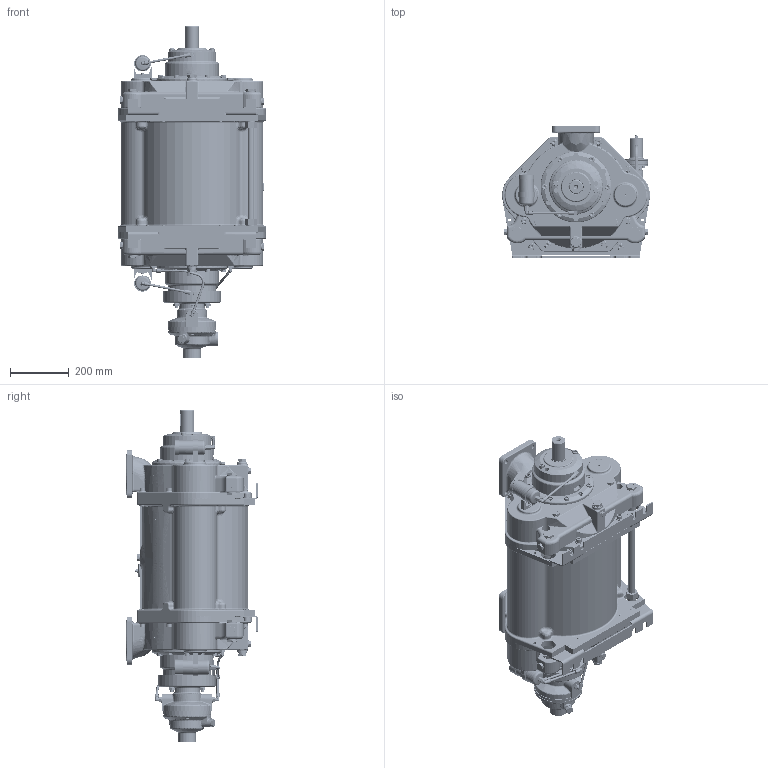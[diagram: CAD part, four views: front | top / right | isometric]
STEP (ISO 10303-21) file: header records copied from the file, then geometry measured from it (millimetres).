
FILE_DESCRIPTION(/* description */ (''),/* implementation_level */ '2;1');
FILE_NAME(/* name */ '1700036D.stp',/* time_stamp */ '2026-06-23T13:17:04+02:00',/* author */ ('JJ'),/* organization */ (''),/* preprocessor_version */ 'ST-DEVELOPER v20',/* originating_system */ 'Autodesk Inventor 2025',/* authorisation */ '');
FILE_SCHEMA (('AUTOMOTIVE_DESIGN { 1 0 10303 214 3 1 1 }'));
Length unit declared in the file: millimetre
Products named in the file (44): 1700036; 1654001; 1654027; 938000159; 938000157; 938000158; 1654001_1; 922200269; 1654092; 1700036_Part5; 1654001_2; 1634811; 922000266; 1634812; 922000267; 922000268; 1634810; 922000269; 1634809; 1654086; 1624126 OUT R180_5; 1624126 IN R180_5; 1700036_Part7; 1700036_Part2; 1654001_3; 910300074; 910300079; 915000050; 922100376; 107981; 1654090; 1700036_Part4; 1700036_Part6; 915000217; 944600240; 944600173; 944600239; 1654086_1; 915000232; 910300487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
Assembly tree (88 placements, depth 4):
  1700036
    1654001
      938000159  x2
      938000157  x2
      938000158  x2
      1654027
    1654001_1
      922200269
      910300079  x2
      910300074  x3
      915000050
      1654092
    1700036_Part5
    1654001_2
      1634811  x5
      922000266  x5
      1634812
      922000267
      922000269  x12
      1634809  x12
      922000268  x2
      1634810  x2
    1654086
      1624126 OUT R180_5  x2
      1624126 IN R180_5  x2
    1700036_Part7
    1700036_Part2
    1654001_3
      910300074  x2
      910300079  x2
      915000050
      922100376
      107981
      1654090
    1700036_Part4
    1700036_Part6
    915000217
    944600240
    944600173
    944600239
    1654086_1
      915000232
      910300487
      910100191
      915000225
        915000225-part1
        915000225-part2
Bounding box: 502.48 x 447.1 x 1128 mm (x, y, z)
Volume: 88630093.7 mm3; surface area: 2923153.6 mm2
Topology: 120 solids, 120 shells, 10617 faces, 27592 edges, 17945 vertices
Faces by surface type: plane 4842, bspline 3027, cylinder 1643, cone 572, torus 450, sphere 83
Full cylindrical faces by diameter (mm): 1.5 x24, 3.3 x4, 3.5 x3, 4 x5, 4.134 x4, 5 x3, 5.3 x3, 6 x12, 6.647 x3, 8 x24, 8.5 x3, 8.8 x4, 8.92 x1, 9 x3, 9.2 x3, 9.7 x1, 9.8 x6, 10 x12, 10.106 x33, 10.11 x5, 11.108 x4, 11.2 x8, 11.445 x1, 12 x41, 13 x31, 13.5 x10, 13.8 x4, 13.835 x8, 14 x12, 14.5 x12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
Entity records: 264165 total; most frequent: CARTESIAN_POINT 91510, ORIENTED_EDGE 37392, DIRECTION 29593, EDGE_CURVE 18696, VERTEX_POINT 12171, AXIS2_PLACEMENT_3D 10353, LINE 8887, VECTOR 8887
